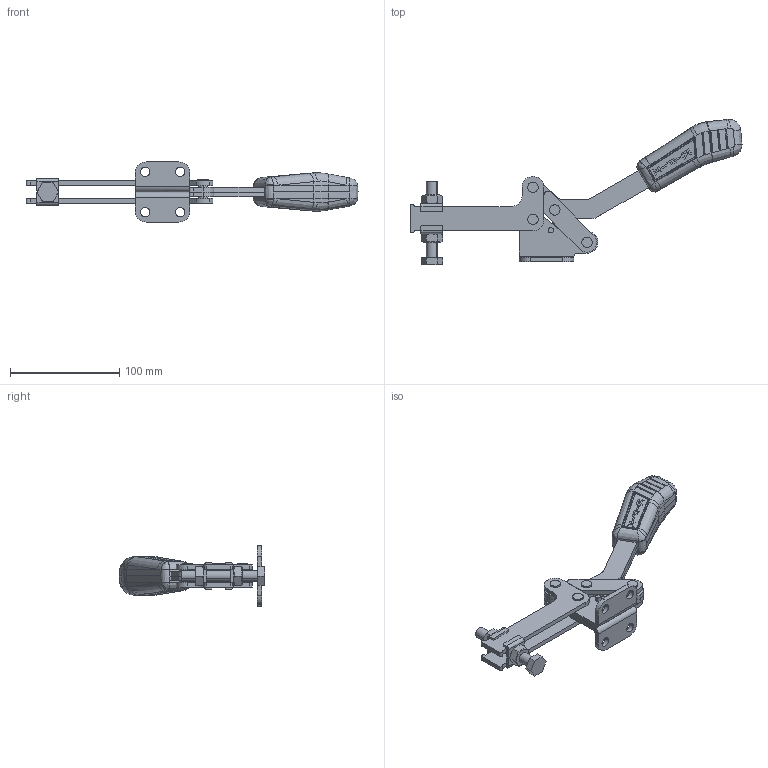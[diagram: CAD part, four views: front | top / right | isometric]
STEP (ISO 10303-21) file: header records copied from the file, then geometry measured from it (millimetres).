
FILE_DESCRIPTION (( 'STEP AP203' ), '1' );
FILE_NAME ('KF-541 DL.STEP', '2014-08-18T17:21:26', ( 'Ricardo' ), ( '' ), 'SwSTEP 2.0', 'SolidWorks 2013', '' );
FILE_SCHEMA (( 'CONFIG_CONTROL_DESIGN' ));
Length unit declared in the file: millimetre
Products named in the file (13): 02.12035_Esquerda; 17.50002; 01.10044; 3670000032; 03.13050; KF-541 DL; 08.10008; 06.50026; 07.60002; 14.10003; 12.50021; 02.12035_Direita; 11.50003
Assembly tree (23 placements, depth 2):
  KF-541 DL
    02.12035_Direita
    02.12035_Esquerda
    01.10044  x2
    03.13050  x2
    08.10008  x2
    06.50026  x4
    07.60002
    14.10003  x2
    12.50021
    11.50003  x2
    17.50002  x4
    3670000032
Bounding box: 303.8 x 132.92 x 55 mm (x, y, z)
Volume: 192501.5 mm3; surface area: 84631.6 mm2
Topology: 23 solids, 23 shells, 761 faces, 1882 edges, 1177 vertices
Faces by surface type: plane 269, cylinder 218, bspline 159, cone 60, sphere 52, torus 3
Entity records: 23460 total; most frequent: CARTESIAN_POINT 8887, ORIENTED_EDGE 2950, DIRECTION 2298, EDGE_CURVE 1475, VERTEX_POINT 932, AXIS2_PLACEMENT_3D 876, EDGE_LOOP 655, ADVANCED_FACE 591
